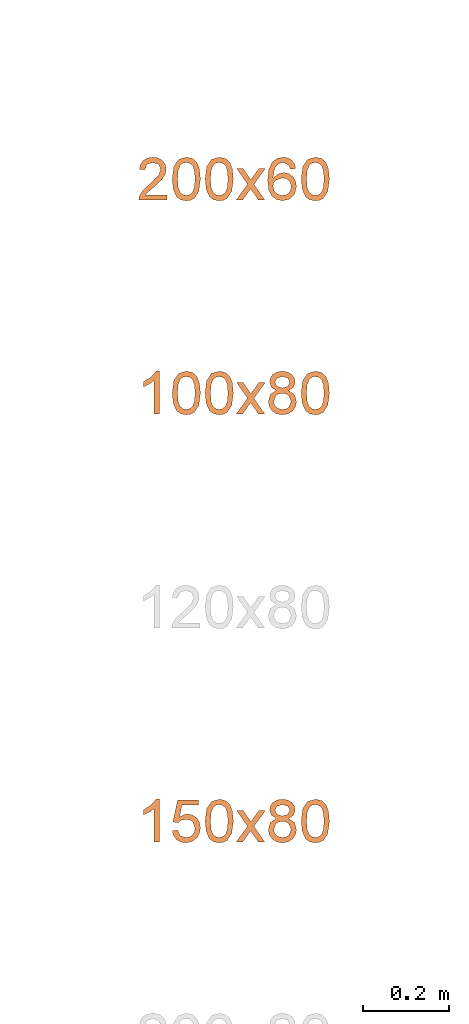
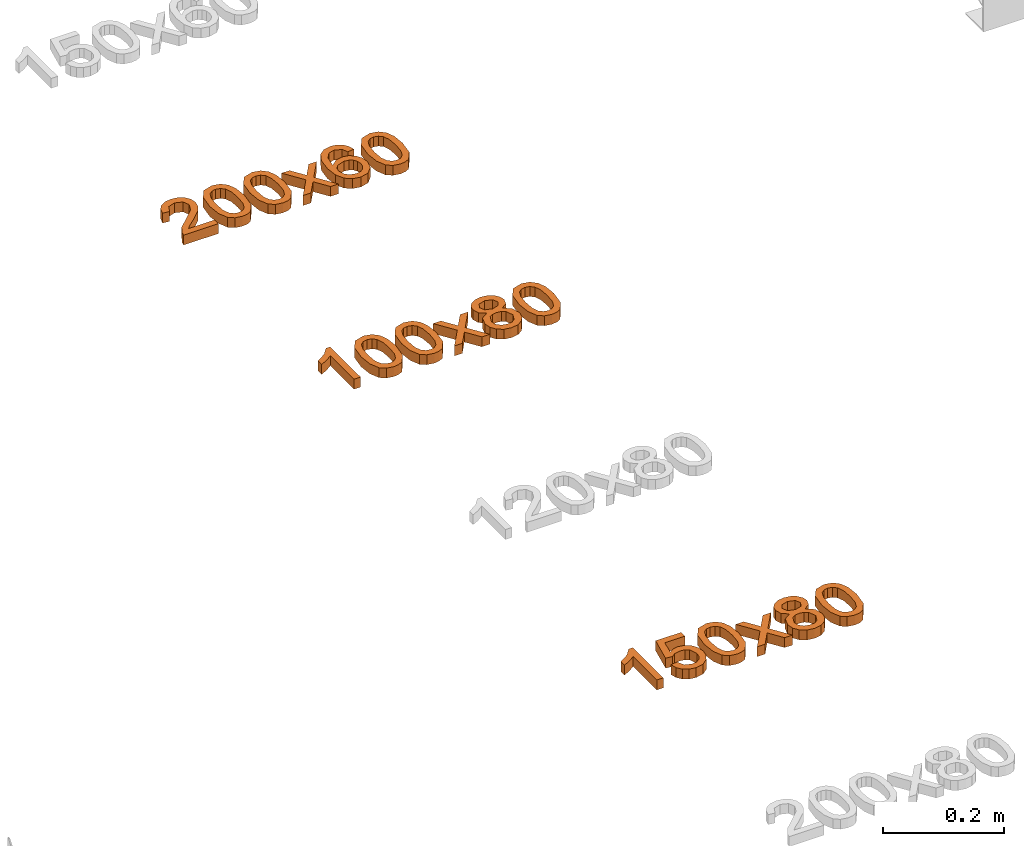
# One storey, part 43 of 71: 3 proxies.
"""IFC2X3 building model written with IfcOpenShell, lengths in millimetres."""

import ifcopenshell
import ifcopenshell.guid

model = None  # the IFC model being written
_history = None  # IfcOwnerHistory: only IFC2X3 demands one
_inside = {}  # id of a spatial element -> (the spatial element, [elements in it])
_under = {}  # id of a project, library or spatial element -> (it, [spatial elements below it])
_declared = {}  # id of a project -> (the project, [libraries it declares])
_typed = {}  # id of a type object -> (the type object, [elements of that type])
_made_of = {}  # id of a material, layer set ... -> (it, [elements and type objects made of it])


def new_model(schema):
    """Start an empty IFC model of exactly this schema.

    Asked for "IFC4X3", IfcOpenShell would pick the latest addendum, in which some entities
    have other attributes; the version numbers below select the first issue.
    IFC2X3 requires an IfcOwnerHistory on every rooted entity: one is made here for all.
    """
    global model, _history
    if schema == "IFC4X3":
        model = ifcopenshell.file(schema_version=(4, 3, 0, 0))
    else:
        model = ifcopenshell.file(schema=schema)
    _inside.clear()
    _under.clear()
    _declared.clear()
    _typed.clear()
    _made_of.clear()
    _history = None
    if model.schema == "IFC2X3":
        org = make("IfcOrganization", Name="unknown")
        user = make(
            "IfcPersonAndOrganization",
            ThePerson=make("IfcPerson", FamilyName="unknown"),
            TheOrganization=org,
        )
        app = make(
            "IfcApplication",
            ApplicationDeveloper=org,
            Version="unknown",
            ApplicationFullName="unknown",
            ApplicationIdentifier="unknown",
        )
        _history = make(
            "IfcOwnerHistory",
            OwningUser=user,
            OwningApplication=app,
            ChangeAction="ADDED",
            CreationDate=0,
        )
    return model


def make(cls, **values):
    """One entity of the class cls with the attributes given. An attribute that is None is left unset."""
    return model.create_entity(
        cls, **{name: value for name, value in values.items() if value is not None}
    )


def entity(cls, *values):
    """Any entity or typed value of the class cls, its attributes in the order of the schema. None: left unset."""
    e = model.create_entity(cls)
    for i, value in enumerate(values):
        if value is not None:
            e[i] = value
    return e


def rooted(cls, **values):
    """An entity with a GlobalId (a new one), such as an element, a storey or a relation."""
    return make(cls, GlobalId=ifcopenshell.guid.new(), OwnerHistory=_history, **values)


def si_unit(unit_type, name, prefix=None):
    """IfcSIUnit, for example si_unit("LENGTHUNIT", "METRE", prefix="MILLI")."""
    return make("IfcSIUnit", UnitType=unit_type, Prefix=prefix, Name=name)


def converted_unit(unit_type, name, factor, base, dimensions=None, offset=None):
    """IfcConversionBasedUnit, such as the inch: factor (a typed value) times the base unit."""
    return make(
        "IfcConversionBasedUnit"
        if offset is None
        else "IfcConversionBasedUnitWithOffset",
        ConversionOffset=offset,
        Dimensions=None
        if dimensions is None
        else entity("IfcDimensionalExponents", *dimensions),
        UnitType=unit_type,
        Name=name,
        ConversionFactor=make(
            "IfcMeasureWithUnit", ValueComponent=factor, UnitComponent=base
        ),
    )


def derived_unit(unit_type, elements):
    """IfcDerivedUnit: a product of units, each with its exponent."""
    return make(
        "IfcDerivedUnit",
        Elements=[
            make("IfcDerivedUnitElement", Unit=unit, Exponent=power)
            for unit, power in elements
        ],
        UnitType=unit_type,
    )


def assignment(units):
    """IfcUnitAssignment: the units of a project."""
    return None if units is None else make("IfcUnitAssignment", Units=units)


def point(xyz):
    """IfcCartesianPoint."""
    return None if xyz is None else make("IfcCartesianPoint", Coordinates=xyz)


def direction(xyz):
    """IfcDirection."""
    return None if xyz is None else make("IfcDirection", DirectionRatios=xyz)


def frame(location, z_axis=None, x_axis=None):
    """IfcAxis2Placement3D, a coordinate frame: its origin and axes. An axis left out is left unset."""
    return make(
        "IfcAxis2Placement3D",
        Location=point(location),
        Axis=direction(z_axis),
        RefDirection=direction(x_axis),
    )


def origin():
    """The frame at (0, 0, 0) with its axes left unset."""
    return frame((0.0, 0.0, 0.0))


def place(relative_to, where):
    """IfcLocalPlacement: puts the frame where relative to a parent placement (None: the world)."""
    return make(
        "IfcLocalPlacement", PlacementRelTo=relative_to, RelativePlacement=where
    )


def context(
    kind, dimensions, precision=None, world=None, true_north=None, identifier=None
):
    """IfcGeometricRepresentationContext, for example the 3D "Model" context."""
    return make(
        "IfcGeometricRepresentationContext",
        ContextIdentifier=identifier,
        ContextType=kind,
        CoordinateSpaceDimension=dimensions,
        Precision=precision,
        WorldCoordinateSystem=world,
        TrueNorth=true_north,
    )


def subcontext(parent, identifier, kind, view, scale=None):
    """IfcGeometricRepresentationSubContext, for example "Body" below "Model"."""
    return make(
        "IfcGeometricRepresentationSubContext",
        ContextIdentifier=identifier,
        ContextType=kind,
        ParentContext=parent,
        TargetScale=scale,
        TargetView=view,
    )


def project(units=None, contexts=None):
    """IfcProject with its units and contexts."""
    return rooted(
        "IfcProject",
        Name="project",
        RepresentationContexts=contexts,
        UnitsInContext=assignment(units),
    )


def spatial(cls, under=None, at=None, **own):
    """A site, building, storey or space (cls), placed at a placement, below another one or the project."""
    s = rooted(cls, ObjectPlacement=at, **own)
    if under is not None:
        _under.setdefault(under.id(), (under, []))[1].append(s)
    return s


def polyline(points):
    """IfcPolyline through the points."""
    return make("IfcPolyline", Points=[point(p) for p in points])


def outline(outer, holes=None, kind="AREA"):
    """IfcArbitraryClosedProfileDef: a profile drawn as a closed curve; with holes, ...WithVoids."""
    if holes is None:
        return make("IfcArbitraryClosedProfileDef", ProfileType=kind, OuterCurve=outer)
    return make(
        "IfcArbitraryProfileDefWithVoids",
        ProfileType=kind,
        OuterCurve=outer,
        InnerCurves=holes,
    )


def extrude(swept, where, along, depth):
    """IfcExtrudedAreaSolid: the profile swept, set in the frame where, extruded along a direction by depth."""
    return make(
        "IfcExtrudedAreaSolid",
        SweptArea=swept,
        Position=where,
        ExtrudedDirection=direction(along),
        Depth=depth,
    )


def shape(context_of_items, identifier, shape_type, items):
    """IfcShapeRepresentation: the items that make up one representation, for example the "Body"."""
    return make(
        "IfcShapeRepresentation",
        ContextOfItems=context_of_items,
        RepresentationIdentifier=identifier,
        RepresentationType=shape_type,
        Items=items,
    )


def made_of(thing, what):
    """Note that an element or type object is made of a material, layer set ...; save() writes the relation."""
    if what is not None:
        _made_of.setdefault(what.id(), (what, []))[1].append(thing)
    return thing


def element(
    cls,
    number,
    at=None,
    inside=None,
    cuts=None,
    type_object=None,
    material=None,
    context=None,
    identifier="Body",
    shape_type=None,
    held_by="IfcProductDefinitionShape",
    body=None,
    shapes=None,
    **own,
):
    """One element of the class cls, such as IfcWall. Its Tag is "e" and its number.

    at: its placement. inside: the storey or other place that contains it. cuts: it is an
    opening in that element (IfcRelVoidsElement). A single representation is given by context,
    identifier, shape_type and body (its items); several are given by shapes. held_by: the class
    of the entity that holds the representations. save() writes the other relations.
    """
    e = rooted(cls, Tag="e%d" % number, ObjectPlacement=at, **own)
    if body is not None:
        shapes = [shape(context, identifier, shape_type, body)]
    if shapes is not None:
        e.Representation = make(held_by, Representations=shapes)
    if inside is not None:
        _inside.setdefault(inside.id(), (inside, []))[1].append(e)
    if cuts is not None:
        rooted(
            "IfcRelVoidsElement", RelatingBuildingElement=cuts, RelatedOpeningElement=e
        )
    if type_object is not None:
        _typed.setdefault(type_object.id(), (type_object, []))[1].append(e)
    return made_of(e, material)


def aggregate(whole, parts):
    """IfcRelAggregates: a whole, such as a stair, and the parts it consists of."""
    return rooted("IfcRelAggregates", RelatingObject=whole, RelatedObjects=parts)


def save(model, path):
    """Write the relations noted so far, then the file.

    IfcRelAggregates (storeys below a building ...), IfcRelContainedInSpatialStructure (elements
    in a storey), IfcRelDefinesByType, IfcRelAssociatesMaterial and IfcRelDeclares: one each for
    every whole, place, type object, material and project.
    """
    for whole, parts in _under.values():
        aggregate(whole, parts)
    for where, things in _inside.values():
        rooted(
            "IfcRelContainedInSpatialStructure",
            RelatedElements=things,
            RelatingStructure=where,
        )
    for kind, things in _typed.values():
        rooted("IfcRelDefinesByType", RelatedObjects=things, RelatingType=kind)
    for what, things in _made_of.values():
        rooted("IfcRelAssociatesMaterial", RelatedObjects=things, RelatingMaterial=what)
    for by, libraries in _declared.values():
        rooted("IfcRelDeclares", RelatingContext=by, RelatedDefinitions=libraries)
    model.write(path)


model = new_model("IFC2X3")

# Units and contexts
model_context = context("Model", 3, precision=0.01, world=origin(), true_north=direction((6.12303176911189e-17, 1.0)))
body_context = subcontext(model_context, "Body", "Model", "MODEL_VIEW")
ifc_project = project(units=[si_unit("LENGTHUNIT", "METRE", prefix="MILLI"), si_unit("AREAUNIT", "SQUARE_METRE"), si_unit("VOLUMEUNIT", "CUBIC_METRE"), converted_unit("PLANEANGLEUNIT", "DEGREE", entity("IfcRatioMeasure", 0.0174532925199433), si_unit("PLANEANGLEUNIT", "RADIAN"), dimensions=[0, 0, 0, 0, 0, 0, 0]), si_unit("MASSUNIT", "GRAM", prefix="KILO"), derived_unit("MASSDENSITYUNIT", [(si_unit("MASSUNIT", "GRAM", prefix="KILO"), 1), (si_unit("LENGTHUNIT", "METRE"), -3)]), si_unit("TIMEUNIT", "SECOND"), si_unit("FREQUENCYUNIT", "HERTZ"), si_unit("THERMODYNAMICTEMPERATUREUNIT", "DEGREE_CELSIUS"), derived_unit("THERMALTRANSMITTANCEUNIT", [(si_unit("MASSUNIT", "GRAM", prefix="KILO"), 1), (si_unit("THERMODYNAMICTEMPERATUREUNIT", "KELVIN"), -1), (si_unit("TIMEUNIT", "SECOND"), -3)]), derived_unit("VOLUMETRICFLOWRATEUNIT", [(si_unit("LENGTHUNIT", "METRE"), 3), (si_unit("TIMEUNIT", "SECOND"), -1)]), si_unit("ELECTRICCURRENTUNIT", "AMPERE"), si_unit("ELECTRICVOLTAGEUNIT", "VOLT"), si_unit("POWERUNIT", "WATT"), si_unit("FORCEUNIT", "NEWTON", prefix="KILO"), si_unit("ILLUMINANCEUNIT", "LUX"), si_unit("LUMINOUSFLUXUNIT", "LUMEN"), si_unit("LUMINOUSINTENSITYUNIT", "CANDELA"), derived_unit("USERDEFINED", [(si_unit("MASSUNIT", "GRAM", prefix="KILO"), -1), (si_unit("LENGTHUNIT", "METRE"), -2), (si_unit("TIMEUNIT", "SECOND"), 3), (si_unit("LUMINOUSFLUXUNIT", "LUMEN"), 1)]), derived_unit("LINEARVELOCITYUNIT", [(si_unit("LENGTHUNIT", "METRE"), 1), (si_unit("TIMEUNIT", "SECOND"), -1)]), si_unit("PRESSUREUNIT", "PASCAL"), derived_unit("USERDEFINED", [(si_unit("LENGTHUNIT", "METRE"), -2), (si_unit("MASSUNIT", "GRAM", prefix="KILO"), 1), (si_unit("TIMEUNIT", "SECOND"), -2)])], contexts=[model_context])

# Site, building, storey
site_placement = place(None, origin())
site = spatial("IfcSite", under=ifc_project, at=site_placement, Name="Default", CompositionType="ELEMENT")
building_placement = place(site_placement, origin())
building = spatial("IfcBuilding", under=site, at=building_placement, Name="Наименование здания", CompositionType="ELEMENT")
storey_placement = place(building_placement, origin())
storey = spatial("IfcBuildingStorey", under=building, at=storey_placement, Name="Этаж 01", CompositionType="ELEMENT", Elevation=0.0)

# Proxies
proxy_1_placement = place(storey_placement, origin())
element("IfcBuildingElementProxy", 1, at=proxy_1_placement, inside=storey, Name="Текст модели:100 мм Arial", ObjectType="Текст модели:100 мм Arial", context=body_context, shape_type="SweptSolid", body=[
    extrude(outline(polyline([(-32.3858783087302, -45.1669477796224), (-32.3858783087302, -57.7239865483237), (33.5385752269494, -57.7239865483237), (32.1896745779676, -49.0664969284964), (24.5622545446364, -35.736905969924), (8.84143061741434, -21.1810416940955), (-12.8390816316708, -0.260818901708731), (-18.2592096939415, 13.9639515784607), (-13.1456499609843, 25.4786580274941), (0.20846646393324, 30.1752848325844), (14.1266686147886, 25.5890226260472), (19.4119066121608, 12.9093565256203), (31.9689453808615, 14.4789863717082), (28.9247218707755, 26.6252235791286), (22.3426998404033, 35.4973110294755), (12.5662358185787, 40.9235704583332), (-0.0613136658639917, 42.7323236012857), (-12.7808336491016, 40.7212353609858), (-22.5389035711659, 34.6879706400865), (-28.7469122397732, 25.6748617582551), (-30.8162484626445, 14.7242410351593), (-28.5844310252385, 2.81712712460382), (-21.1654774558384, -9.49465698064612), (-3.17604789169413, -26.6992716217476), (11.2694517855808, -38.778063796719), (16.9348345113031, -45.1669477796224), (-32.3858783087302, -45.1669477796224)])), frame((15052.4125507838, -2405.611269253, 0.0), z_axis=(0.0, 0.0, -1.0), x_axis=(-1.0, 0.0, 0.0)), (0.0, 0.0, -1.0), 20.0),
    extrude(outline(polyline([(-7.02884310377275, -33.3490673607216), (17.5323805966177, -33.3490673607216), (35.1984171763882, -27.6137612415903), (43.3439841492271, -18.4876517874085), (47.0516941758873, -5.75150665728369), (46.7162020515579, 4.48638208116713), (43.4465778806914, 13.0955287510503), (27.9444305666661, 25.6659118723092), (-0.314338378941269, 32.2325535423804), (-24.0296505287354, 32.3678288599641), (-39.4143020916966, 28.026088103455), (-49.7293680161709, 18.9002174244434), (-54.4436715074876, 4.6399887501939), (-50.8676582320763, -14.1301059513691), (-35.4058547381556, -26.7333390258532), (-7.02884310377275, -33.3490673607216)]), holes=[polyline([(-5.77428774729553, -20.8548320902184), (-25.0157644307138, -17.3562860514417), (-36.7257089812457, -11.5717922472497), (-41.0962588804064, -4.77599682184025), (-41.9669219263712, 3.21464792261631), (-39.2244253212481, 11.2791292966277), (-32.8654063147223, 17.2229259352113), (-20.9698370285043, 20.2947501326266), (-1.61768958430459, 19.7433141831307), (17.8514140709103, 16.2707701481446), (28.7803640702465, 10.7141596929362), (33.5546988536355, 3.61815959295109), (34.5599568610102, -4.47255337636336), (31.9421230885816, -12.1923199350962), (25.8471825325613, -18.1754808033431), (14.0250679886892, -21.4027476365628), (-5.77428774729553, -20.8548320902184)])]), frame((15131.2470054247, -2417.51207886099, 0.0), z_axis=(0.0, 0.0, 1.0), x_axis=(0.1018515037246, -0.994799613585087, 0.0)), (0.0, 0.0, 1.0), 20.0),
    extrude(outline(polyline([(-7.02884310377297, -33.3490673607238), (17.5323805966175, -33.3490673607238), (35.198417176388, -27.6137612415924), (43.3439841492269, -18.4876517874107), (47.051694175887, -5.75150665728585), (46.7162020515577, 4.48638208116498), (43.4465778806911, 13.0955287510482), (27.9444305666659, 25.665911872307), (-0.31433837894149, 32.2325535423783), (-24.0296505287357, 32.3678288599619), (-39.4143020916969, 28.0260881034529), (-49.7293680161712, 18.9002174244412), (-54.4436715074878, 4.63998875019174), (-50.8676582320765, -14.1301059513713), (-35.4058547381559, -26.7333390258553), (-7.02884310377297, -33.3490673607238)]), holes=[polyline([(-5.77428774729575, -20.8548320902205), (-25.015764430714, -17.3562860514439), (-36.7257089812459, -11.5717922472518), (-41.0962588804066, -4.7759968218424), (-41.9669219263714, 3.21464792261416), (-39.2244253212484, 11.2791292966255), (-32.8654063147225, 17.2229259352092), (-20.9698370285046, 20.2947501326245), (-1.61768958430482, 19.7433141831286), (17.8514140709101, 16.2707701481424), (28.7803640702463, 10.7141596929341), (33.5546988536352, 3.61815959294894), (34.55995686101, -4.47255337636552), (31.9421230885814, -12.1923199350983), (25.8471825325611, -18.1754808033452), (14.0250679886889, -21.4027476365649), (-5.77428774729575, -20.8548320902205)])]), frame((15208.158867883, -2417.51207886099, 0.0), z_axis=(0.0, 0.0, 1.0), x_axis=(0.1018515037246, -0.994799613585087, 0.0)), (0.0, 0.0, 1.0), 20.0),
    extrude(outline(polyline([(-34.5302215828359, -38.4265006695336), (-19.4225343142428, -38.4265006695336), (-0.341721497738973, -12.0616243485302), (2.47870713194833, -16.1328517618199), (17.8561745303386, -38.4265006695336), (32.9638617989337, -38.4265006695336), (7.40832586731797, -1.34399555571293), (33.9448804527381, 35.3461020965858), (18.837193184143, 35.3461020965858), (4.95577923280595, 16.1671874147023), (0.0261604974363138, 9.34910777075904), (-5.6637476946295, 17.6877663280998), (-17.852904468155, 35.3461020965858), (-32.960591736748, 35.3461020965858), (-7.69936140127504, -1.34399555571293), (-34.5302215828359, -38.4265006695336)])), frame((15281.0005248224, -2424.90875513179, 0.0)), (0.0, 0.0, 1.0), 20.0),
    extrude(outline(polyline([(6.79275401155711, -32.50277615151), (18.3659045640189, -32.50277615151), (28.1525204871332, -28.8011371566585), (35.6312934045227, -21.71787047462), (40.2809149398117, -11.5729874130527), (41.4130789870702, 3.23667074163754), (36.1391243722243, 16.3729018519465), (21.859973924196, 28.8803269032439), (-1.50836821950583, 38.2054593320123), (-23.6059131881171, 41.7609274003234), (-39.9814227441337, 38.5965283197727), (-51.1650797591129, 29.9216784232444), (-57.6870671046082, 16.945794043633), (-57.9805556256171, -0.0494879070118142), (-49.2081886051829, -14.3141019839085), (-33.6167855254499, -22.93505686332), (-20.6265742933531, -24.250233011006), (-8.97800352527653, -20.6254922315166), (0.0919027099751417, -13.0350962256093), (5.34612034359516, -2.45330669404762), (5.8548316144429, 11.6447254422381), (-0.843339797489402, 24.9910631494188), (19.7707676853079, 15.5765036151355), (28.484099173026, 4.26766164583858), (28.3893512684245, -7.4637453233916), (19.9956250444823, -18.1936336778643), (8.63303585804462, -19.9825396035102), (6.79275401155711, -32.50277615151)]), holes=[polyline([(-18.7586717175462, 29.954959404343), (-11.632811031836, 26.361336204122), (-6.9415407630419, 20.2038317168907), (-5.85783236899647, 4.13761066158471), (-9.48331864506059, -3.95286412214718), (-15.1077394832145, -9.26901644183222), (-22.3091633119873, -11.5969098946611), (-30.6656585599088, -10.7226080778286), (-38.6094491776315, -7.06141592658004), (-43.8637090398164, -1.22509865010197), (-46.1835287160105, 6.17768396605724), (-45.3239987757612, 14.5382721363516), (-39.690117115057, 24.7221971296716), (-30.016813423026, 30.0585493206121), (-18.7586717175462, 29.954959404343)])]), frame((15356.6584546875, -2404.78751753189, 0.0), z_axis=(0.0, 0.0, 1.0), x_axis=(-0.267015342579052, 0.963692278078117, 0.0)), (0.0, 0.0, 1.0), 20.0),
    extrude(outline(polyline([(-7.02884310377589, -33.3490673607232), (17.5323805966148, -33.3490673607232), (35.1984171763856, -27.6137612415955), (43.3439841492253, -18.4876517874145), (47.0516941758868, -5.7515066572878), (46.7162020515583, 4.48638208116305), (43.4465778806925, 13.0955287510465), (27.9444305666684, 25.6659118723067), (-0.314338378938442, 32.2325535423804), (-24.0296505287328, 32.367828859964), (-39.4143020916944, 28.0260881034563), (-49.7293680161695, 18.9002174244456), (-54.4436715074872, 4.63998875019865), (-50.8676582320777, -14.1301059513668), (-35.405854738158, -26.7333390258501), (-7.02884310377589, -33.3490673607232)]), holes=[polyline([(-5.77428774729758, -20.85483209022), (-25.0157644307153, -17.3562860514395), (-36.7257089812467, -11.5717922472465), (-41.0962588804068, -4.77599682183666), (-41.9669219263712, 3.21464792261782), (-39.2244253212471, 11.2791292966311), (-32.8654063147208, 17.2229259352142), (-20.9698370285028, 20.2947501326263), (-1.61768958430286, 19.7433141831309), (17.8514140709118, 16.270770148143), (28.7803640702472, 10.7141596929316), (33.5546988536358, 3.61815959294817), (34.5599568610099, -4.47255337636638), (31.9421230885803, -12.1923199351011), (25.8471825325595, -18.1754808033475), (14.0250679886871, -21.4027476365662), (-5.77428774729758, -20.85483209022)])]), frame((15432.6159358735, -2417.51207886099, 0.0), z_axis=(0.0, 0.0, 1.0), x_axis=(0.101851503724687, -0.994799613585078, 0.0)), (0.0, 0.0, 1.0), 20.0),
])
proxy_2_placement = place(storey_placement, origin())
element("IfcBuildingElementProxy", 2, at=proxy_2_placement, inside=storey, Name="Текст модели:100 мм Arial", ObjectType="Текст модели:100 мм Arial", context=body_context, shape_type="SweptSolid", body=[
    extrude(outline(polyline([(-63.8793021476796, -16.9184842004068), (36.5770080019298, -16.9184842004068), (36.5770080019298, -8.82508030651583), (23.2106288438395, 2.34626961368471), (11.4629304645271, 20.7526321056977), (-0.407395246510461, 20.7526321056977), (5.93243780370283, 7.53340574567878), (14.4059864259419, -4.36144543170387), (-63.8793021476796, -4.36144543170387), (-63.8793021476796, -16.9184842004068)])), frame((15050.6140165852, -2899.45595365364, 0.0), z_axis=(0.0, 0.0, 1.0), x_axis=(0.0, 1.0, 0.0)), (0.0, 0.0, 1.0), 20.0),
    extrude(outline(polyline([(-7.02884310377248, -33.3490673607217), (17.532380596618, -33.3490673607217), (35.1984171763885, -27.6137612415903), (43.3439841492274, -18.4876517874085), (47.0516941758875, -5.75150665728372), (46.7162020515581, 4.4863820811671), (43.4465778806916, 13.0955287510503), (27.9444305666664, 25.6659118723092), (-0.314338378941, 32.2325535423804), (-24.0296505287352, 32.367828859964), (-39.4143020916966, 28.026088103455), (-49.7293680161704, 18.9002174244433), (-54.4436715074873, 4.63998875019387), (-50.8676582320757, -14.1301059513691), (-35.4058547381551, -26.7333390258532), (-7.02884310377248, -33.3490673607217)]), holes=[polyline([(-5.77428774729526, -20.8548320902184), (-25.0157644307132, -17.3562860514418), (-36.7257089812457, -11.5717922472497), (-41.0962588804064, -4.77599682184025), (-41.966921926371, 3.21464792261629), (-39.2244253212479, 11.2791292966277), (-32.8654063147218, 17.2229259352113), (-20.9698370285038, 20.2947501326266), (-1.61768958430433, 19.7433141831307), (17.8514140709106, 16.2707701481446), (28.7803640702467, 10.7141596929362), (33.5546988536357, 3.61815959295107), (34.5599568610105, -4.47255337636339), (31.9421230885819, -12.1923199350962), (25.8471825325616, -18.1754808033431), (14.0250679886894, -21.4027476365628), (-5.77428774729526, -20.8548320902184)])]), frame((15131.2470054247, -2917.51207886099, 0.0), z_axis=(0.0, 0.0, 1.0), x_axis=(0.1018515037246, -0.994799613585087, 0.0)), (0.0, 0.0, 1.0), 20.0),
    extrude(outline(polyline([(-7.0288431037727, -33.3490673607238), (17.5323805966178, -33.3490673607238), (35.1984171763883, -27.6137612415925), (43.3439841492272, -18.4876517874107), (47.0516941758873, -5.75150665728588), (46.7162020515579, 4.48638208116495), (43.4465778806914, 13.0955287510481), (27.9444305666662, 25.665911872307), (-0.31433837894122, 32.2325535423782), (-24.0296505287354, 32.3678288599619), (-39.4143020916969, 28.0260881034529), (-49.7293680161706, 18.9002174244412), (-54.4436715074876, 4.63998875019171), (-50.867658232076, -14.1301059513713), (-35.4058547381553, -26.7333390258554), (-7.0288431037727, -33.3490673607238)]), holes=[polyline([(-5.77428774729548, -20.8548320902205), (-25.0157644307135, -17.3562860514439), (-36.7257089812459, -11.5717922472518), (-41.0962588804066, -4.7759968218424), (-41.9669219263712, 3.21464792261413), (-39.2244253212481, 11.2791292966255), (-32.865406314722, 17.2229259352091), (-20.969837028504, 20.2947501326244), (-1.61768958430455, 19.7433141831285), (17.8514140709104, 16.2707701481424), (28.7803640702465, 10.7141596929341), (33.5546988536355, 3.61815959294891), (34.5599568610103, -4.47255337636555), (31.9421230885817, -12.1923199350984), (25.8471825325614, -18.1754808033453), (14.0250679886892, -21.402747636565), (-5.77428774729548, -20.8548320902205)])]), frame((15208.158867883, -2917.51207886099, 0.0), z_axis=(0.0, 0.0, 1.0), x_axis=(0.1018515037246, -0.994799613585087, 0.0)), (0.0, 0.0, 1.0), 20.0),
    extrude(outline(polyline([(-34.5302215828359, -38.4265006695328), (-19.4225343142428, -38.4265006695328), (-0.341721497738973, -12.0616243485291), (2.47870713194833, -16.1328517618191), (17.8561745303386, -38.4265006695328), (32.9638617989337, -38.4265006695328), (7.40832586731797, -1.34399555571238), (33.9448804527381, 35.3461020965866), (18.837193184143, 35.3461020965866), (4.95577923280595, 16.1671874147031), (0.0261604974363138, 9.34910777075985), (-5.6637476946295, 17.6877663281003), (-17.852904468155, 35.3461020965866), (-32.960591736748, 35.3461020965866), (-7.69936140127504, -1.34399555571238), (-34.5302215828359, -38.4265006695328)])), frame((15281.0005248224, -2924.90875513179, 0.0)), (0.0, 0.0, 1.0), 20.0),
    extrude(outline(polyline([(10.1224324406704, -11.2212127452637), (26.4477736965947, -11.2212127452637), (39.686138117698, -0.0909413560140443), (44.6322314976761, 11.3078156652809), (44.5856416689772, 23.4168603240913), (39.6073830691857, 34.8346290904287), (29.7584701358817, 44.1595584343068), (17.4236057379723, 49.795656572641), (4.98749274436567, 50.1469317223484), (-6.20047708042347, 45.7236060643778), (-14.7909119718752, 37.0359017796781), (-20.0781666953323, 21.0056847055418), (-14.5070621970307, 5.37692494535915), (-28.0684052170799, 5.15563707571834), (-37.7221714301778, -2.60845010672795), (-41.5236361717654, -11.935700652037), (-41.0036870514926, -22.2232653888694), (-36.1916154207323, -32.1870777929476), (-27.1167126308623, -40.5430713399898), (-16.0503295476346, -45.812309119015), (-5.18246445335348, -46.5706787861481), (4.3845330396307, -43.2361071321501), (11.5483133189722, -36.2265209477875), (15.2516244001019, -24.0826582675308), (10.1224324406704, -11.2212127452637)]), holes=[polyline([(29.0262968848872, 6.56051660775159), (17.1806533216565, -1.51571690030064), (9.68494123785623, -1.27757268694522), (1.95268767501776, 2.32885586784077), (-4.46267094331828, 8.27886886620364), (-7.64161156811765, 15.3010558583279), (-4.59707955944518, 29.6929468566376), (7.31333657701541, 37.799466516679), (14.8367372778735, 37.487209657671), (22.6595729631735, 33.8012523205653), (30.3730358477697, 25.5864099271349), (32.5711030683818, 15.5727469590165), (29.0262968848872, 6.56051660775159)]), polyline([(1.34077476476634, -28.903904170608), (-7.53771017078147, -33.9815875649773), (-20.2415350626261, -30.0339976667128), (-28.5905650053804, -19.6902819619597), (-26.9800933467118, -9.13787919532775), (-18.1108932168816, -3.87648928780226), (-5.45128168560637, -7.82385811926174), (3.1592702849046, -18.2403048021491), (1.34077476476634, -28.903904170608)])]), frame((15354.7737407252, -2911.65422231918, 0.0), z_axis=(0.0, 0.0, 1.0), x_axis=(-0.829266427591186, -0.558853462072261, 0.0)), (0.0, 0.0, 1.0), 20.0),
    extrude(outline(polyline([(-7.02884310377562, -33.3490673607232), (17.5323805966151, -33.3490673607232), (35.1984171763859, -27.6137612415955), (43.3439841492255, -18.4876517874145), (47.051694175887, -5.75150665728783), (46.7162020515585, 4.48638208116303), (43.4465778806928, 13.0955287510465), (27.9444305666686, 25.6659118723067), (-0.314338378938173, 32.2325535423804), (-24.0296505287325, 32.367828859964), (-39.4143020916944, 28.0260881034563), (-49.729368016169, 18.9002174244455), (-54.4436715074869, 4.63998875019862), (-50.8676582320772, -14.1301059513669), (-35.4058547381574, -26.7333390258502), (-7.02884310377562, -33.3490673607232)]), holes=[polyline([(-5.77428774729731, -20.85483209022), (-25.0157644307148, -17.3562860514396), (-36.7257089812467, -11.5717922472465), (-41.0962588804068, -4.77599682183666), (-41.9669219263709, 3.21464792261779), (-39.2244253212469, 11.2791292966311), (-32.8654063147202, 17.2229259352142), (-20.9698370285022, 20.2947501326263), (-1.61768958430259, 19.7433141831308), (17.851414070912, 16.270770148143), (28.7803640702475, 10.7141596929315), (33.554698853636, 3.61815959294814), (34.5599568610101, -4.47255337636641), (31.9421230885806, -12.1923199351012), (25.8471825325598, -18.1754808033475), (14.0250679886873, -21.4027476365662), (-5.77428774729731, -20.85483209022)])]), frame((15432.6159358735, -2917.51207886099, 0.0), z_axis=(0.0, 0.0, 1.0), x_axis=(0.101851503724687, -0.994799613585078, 0.0)), (0.0, 0.0, 1.0), 20.0),
])
proxy_3_placement = place(storey_placement, origin())
element("IfcBuildingElementProxy", 3, at=proxy_3_placement, inside=storey, Name="Текст модели:100 мм Arial", ObjectType="Текст модели:100 мм Arial", context=body_context, shape_type="SweptSolid", body=[
    extrude(outline(polyline([(-63.8793021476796, -16.9184842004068), (36.5770080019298, -16.9184842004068), (36.5770080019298, -8.82508030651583), (23.2106288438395, 2.34626961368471), (11.4629304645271, 20.7526321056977), (-0.407395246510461, 20.7526321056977), (5.93243780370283, 7.53340574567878), (14.4059864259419, -4.36144543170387), (-63.8793021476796, -4.36144543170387), (-63.8793021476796, -16.9184842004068)])), frame((15050.6140165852, -3899.45595365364, 0.0), z_axis=(0.0, 0.0, 1.0), x_axis=(0.0, 1.0, 0.0)), (0.0, 0.0, 1.0), 20.0),
    extrude(outline(polyline([(3.81439562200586, -37.2548959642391), (15.7323946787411, -37.2548959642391), (26.1588137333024, -33.0579698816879), (34.2921694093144, -25.0537205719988), (39.3309783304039, -13.6317508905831), (40.2219288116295, 1.43409098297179), (34.3991305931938, 14.6815107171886), (25.5350217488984, 23.1481891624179), (13.9054384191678, 28.277097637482), (0.912111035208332, 29.4702838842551), (-10.7159258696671, 25.7768606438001), (-19.7427074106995, 18.0989984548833), (-24.9322687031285, 7.33886785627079), (-25.5937300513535, -2.21124798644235), (-22.6370240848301, -12.2793380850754), (-47.9924930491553, 0.0204883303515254), (-38.0977082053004, 37.2324069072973), (-50.2330599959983, 40.459241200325), (-62.7370428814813, -6.56524698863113), (-15.5021967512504, -30.4943712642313), (-10.7584434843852, -18.7623737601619), (-14.421629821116, -10.4922324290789), (-13.6981616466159, 0.722667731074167), (-9.98738154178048, 9.35727561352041), (-4.32553373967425, 14.6878856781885), (11.4370636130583, 15.94006870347), (19.748168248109, 12.2772427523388), (25.4355726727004, 6.40632241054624), (28.0665145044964, -1.27212018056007), (27.2082313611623, -10.357512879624), (19.6530635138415, -21.9256319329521), (5.5243109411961, -24.7161898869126), (3.81439562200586, -37.2548959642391)])), frame((15132.3790792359, -3923.39170175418, 0.0), z_axis=(0.0, 0.0, 1.0), x_axis=(0.256974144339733, -0.966418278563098, 0.0)), (0.0, 0.0, 1.0), 20.0),
    extrude(outline(polyline([(-7.0288431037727, -33.3490673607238), (17.5323805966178, -33.3490673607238), (35.1984171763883, -27.6137612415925), (43.3439841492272, -18.4876517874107), (47.0516941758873, -5.75150665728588), (46.7162020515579, 4.48638208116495), (43.4465778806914, 13.0955287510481), (27.9444305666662, 25.665911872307), (-0.31433837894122, 32.2325535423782), (-24.0296505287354, 32.3678288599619), (-39.4143020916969, 28.0260881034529), (-49.7293680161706, 18.9002174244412), (-54.4436715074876, 4.63998875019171), (-50.867658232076, -14.1301059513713), (-35.4058547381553, -26.7333390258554), (-7.0288431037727, -33.3490673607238)]), holes=[polyline([(-5.77428774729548, -20.8548320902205), (-25.0157644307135, -17.3562860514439), (-36.7257089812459, -11.5717922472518), (-41.0962588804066, -4.7759968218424), (-41.9669219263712, 3.21464792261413), (-39.2244253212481, 11.2791292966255), (-32.865406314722, 17.2229259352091), (-20.969837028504, 20.2947501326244), (-1.61768958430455, 19.7433141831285), (17.8514140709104, 16.2707701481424), (28.7803640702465, 10.7141596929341), (33.5546988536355, 3.61815959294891), (34.5599568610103, -4.47255337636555), (31.9421230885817, -12.1923199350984), (25.8471825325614, -18.1754808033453), (14.0250679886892, -21.402747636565), (-5.77428774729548, -20.8548320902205)])]), frame((15208.158867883, -3917.51207886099, 0.0), z_axis=(0.0, 0.0, 1.0), x_axis=(0.1018515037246, -0.994799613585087, 0.0)), (0.0, 0.0, 1.0), 20.0),
    extrude(outline(polyline([(-34.5302215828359, -38.4265006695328), (-19.4225343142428, -38.4265006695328), (-0.341721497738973, -12.0616243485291), (2.47870713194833, -16.1328517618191), (17.8561745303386, -38.4265006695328), (32.9638617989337, -38.4265006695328), (7.40832586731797, -1.34399555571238), (33.9448804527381, 35.3461020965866), (18.837193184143, 35.3461020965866), (4.95577923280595, 16.1671874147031), (0.0261604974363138, 9.34910777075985), (-5.6637476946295, 17.6877663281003), (-17.852904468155, 35.3461020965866), (-32.960591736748, 35.3461020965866), (-7.69936140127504, -1.34399555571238), (-34.5302215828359, -38.4265006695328)])), frame((15281.0005248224, -3924.90875513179, 0.0)), (0.0, 0.0, 1.0), 20.0),
    extrude(outline(polyline([(10.1224324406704, -11.2212127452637), (26.4477736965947, -11.2212127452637), (39.686138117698, -0.0909413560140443), (44.6322314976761, 11.3078156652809), (44.5856416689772, 23.4168603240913), (39.6073830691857, 34.8346290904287), (29.7584701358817, 44.1595584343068), (17.4236057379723, 49.795656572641), (4.98749274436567, 50.1469317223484), (-6.20047708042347, 45.7236060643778), (-14.7909119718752, 37.0359017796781), (-20.0781666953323, 21.0056847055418), (-14.5070621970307, 5.37692494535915), (-28.0684052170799, 5.15563707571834), (-37.7221714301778, -2.60845010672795), (-41.5236361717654, -11.935700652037), (-41.0036870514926, -22.2232653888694), (-36.1916154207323, -32.1870777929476), (-27.1167126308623, -40.5430713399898), (-16.0503295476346, -45.812309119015), (-5.18246445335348, -46.5706787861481), (4.3845330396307, -43.2361071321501), (11.5483133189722, -36.2265209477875), (15.2516244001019, -24.0826582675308), (10.1224324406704, -11.2212127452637)]), holes=[polyline([(29.0262968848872, 6.56051660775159), (17.1806533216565, -1.51571690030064), (9.68494123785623, -1.27757268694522), (1.95268767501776, 2.32885586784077), (-4.46267094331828, 8.27886886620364), (-7.64161156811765, 15.3010558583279), (-4.59707955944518, 29.6929468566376), (7.31333657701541, 37.799466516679), (14.8367372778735, 37.487209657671), (22.6595729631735, 33.8012523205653), (30.3730358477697, 25.5864099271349), (32.5711030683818, 15.5727469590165), (29.0262968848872, 6.56051660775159)]), polyline([(1.34077476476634, -28.903904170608), (-7.53771017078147, -33.9815875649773), (-20.2415350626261, -30.0339976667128), (-28.5905650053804, -19.6902819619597), (-26.9800933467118, -9.13787919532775), (-18.1108932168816, -3.87648928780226), (-5.45128168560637, -7.82385811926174), (3.1592702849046, -18.2403048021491), (1.34077476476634, -28.903904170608)])]), frame((15354.7737407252, -3911.65422231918, 0.0), z_axis=(0.0, 0.0, 1.0), x_axis=(-0.829266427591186, -0.558853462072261, 0.0)), (0.0, 0.0, 1.0), 20.0),
    extrude(outline(polyline([(-7.02884310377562, -33.3490673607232), (17.5323805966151, -33.3490673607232), (35.1984171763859, -27.6137612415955), (43.3439841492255, -18.4876517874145), (47.051694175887, -5.75150665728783), (46.7162020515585, 4.48638208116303), (43.4465778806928, 13.0955287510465), (27.9444305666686, 25.6659118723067), (-0.314338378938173, 32.2325535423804), (-24.0296505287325, 32.367828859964), (-39.4143020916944, 28.0260881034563), (-49.729368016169, 18.9002174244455), (-54.4436715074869, 4.63998875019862), (-50.8676582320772, -14.1301059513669), (-35.4058547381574, -26.7333390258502), (-7.02884310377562, -33.3490673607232)]), holes=[polyline([(-5.77428774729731, -20.85483209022), (-25.0157644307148, -17.3562860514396), (-36.7257089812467, -11.5717922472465), (-41.0962588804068, -4.77599682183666), (-41.9669219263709, 3.21464792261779), (-39.2244253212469, 11.2791292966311), (-32.8654063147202, 17.2229259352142), (-20.9698370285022, 20.2947501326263), (-1.61768958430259, 19.7433141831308), (17.851414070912, 16.270770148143), (28.7803640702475, 10.7141596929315), (33.554698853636, 3.61815959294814), (34.5599568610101, -4.47255337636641), (31.9421230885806, -12.1923199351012), (25.8471825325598, -18.1754808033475), (14.0250679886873, -21.4027476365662), (-5.77428774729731, -20.85483209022)])]), frame((15432.6159358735, -3917.51207886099, 0.0), z_axis=(0.0, 0.0, 1.0), x_axis=(0.101851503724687, -0.994799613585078, 0.0)), (0.0, 0.0, 1.0), 20.0),
])

save(model, "model.ifc")
